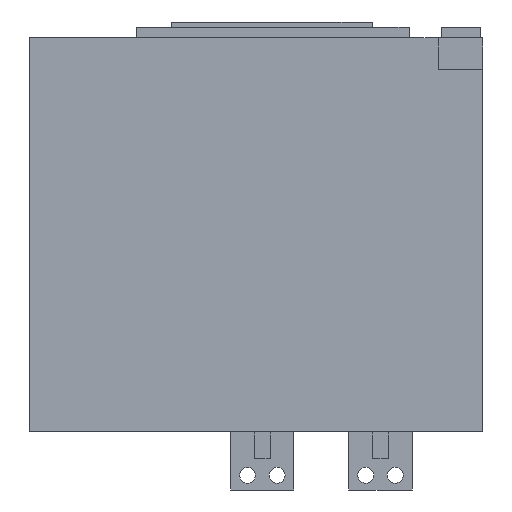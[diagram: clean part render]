
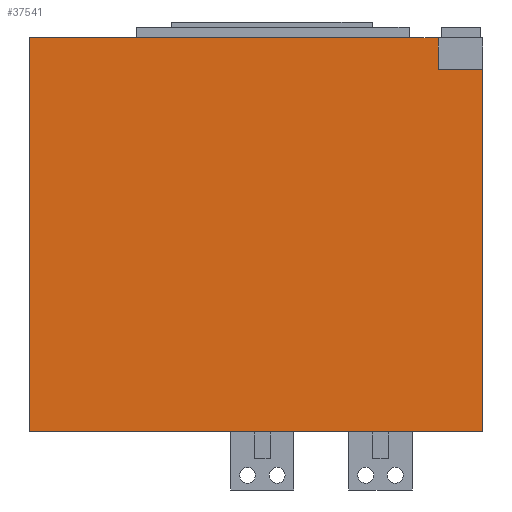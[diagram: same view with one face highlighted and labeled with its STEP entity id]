
A CAD part, left-side view. The second image highlights one B-rep face of the part: STEP entity #37541.
In plain terms, the highlighted planar face has unit normal (-1, 0, 0).
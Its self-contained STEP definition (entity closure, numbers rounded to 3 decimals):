
#518 = ORIENTED_EDGE ( 'NONE', *, *, #30939, .F. ) ;
#1205 = LINE ( 'NONE', #22330, #31260 ) ;
#1665 = ORIENTED_EDGE ( 'NONE', *, *, #14695, .F. ) ;
#1696 = CARTESIAN_POINT ( 'NONE',  ( -167.5, 0., 0. ) ) ;
#2032 = VECTOR ( 'NONE', #36697, 1000. ) ;
#4281 = VERTEX_POINT ( 'NONE', #5309 ) ;
#4598 = VECTOR ( 'NONE', #19833, 1000. ) ;
#5309 = CARTESIAN_POINT ( 'NONE',  ( -167.5, 0., -30. ) ) ;
#6048 = AXIS2_PLACEMENT_3D ( 'NONE', #33734, #27900, #9968 ) ;
#6926 = CARTESIAN_POINT ( 'NONE',  ( -167.5, 42.5, -373.5 ) ) ;
#7945 = ORIENTED_EDGE ( 'NONE', *, *, #24642, .F. ) ;
#7967 = LINE ( 'NONE', #27673, #15080 ) ;
#9101 = CARTESIAN_POINT ( 'NONE',  ( -167.5, 430., 0. ) ) ;
#9937 = DIRECTION ( 'NONE',  ( 0., 0., 1. ) ) ;
#9968 = DIRECTION ( 'NONE',  ( 0., -1., 0. ) ) ;
#10099 = LINE ( 'NONE', #12870, #2032 ) ;
#12431 = LINE ( 'NONE', #15123, #27401 ) ;
#12870 = CARTESIAN_POINT ( 'NONE',  ( -167.5, 0., -373.5 ) ) ;
#12994 = VERTEX_POINT ( 'NONE', #13402 ) ;
#13402 = CARTESIAN_POINT ( 'NONE',  ( -167.5, 42.5, 0. ) ) ;
#14163 = EDGE_CURVE ( 'NONE', #21193, #4281, #7967, .T. ) ;
#14527 = EDGE_CURVE ( 'NONE', #36200, #12994, #16466, .T. ) ;
#14695 = EDGE_CURVE ( 'NONE', #26095, #12994, #27618, .T. ) ;
#15080 = VECTOR ( 'NONE', #18873, 1000. ) ;
#15123 = CARTESIAN_POINT ( 'NONE',  ( -167.5, 430., -373.5 ) ) ;
#16466 = LINE ( 'NONE', #6926, #22524 ) ;
#18416 = EDGE_CURVE ( 'NONE', #36777, #21193, #10099, .T. ) ;
#18873 = DIRECTION ( 'NONE',  ( 0., 0., 1. ) ) ;
#19665 = CARTESIAN_POINT ( 'NONE',  ( -167.5, 0., -373.5 ) ) ;
#19710 = EDGE_LOOP ( 'NONE', ( #1665, #7945, #33427, #23748, #518, #33133 ) ) ;
#19833 = DIRECTION ( 'NONE',  ( 0., -1., 0. ) ) ;
#21193 = VERTEX_POINT ( 'NONE', #19665 ) ;
#22330 = CARTESIAN_POINT ( 'NONE',  ( -167.5, 430.001, -30. ) ) ;
#22524 = VECTOR ( 'NONE', #9937, 1000. ) ;
#23748 = ORIENTED_EDGE ( 'NONE', *, *, #14163, .T. ) ;
#24518 = CARTESIAN_POINT ( 'NONE',  ( -167.5, 42.5, -30. ) ) ;
#24642 = EDGE_CURVE ( 'NONE', #36777, #26095, #12431, .T. ) ;
#24926 = PLANE ( 'NONE',  #6048 ) ;
#25308 = DIRECTION ( 'NONE',  ( 0., -1., 0. ) ) ;
#26095 = VERTEX_POINT ( 'NONE', #9101 ) ;
#27401 = VECTOR ( 'NONE', #29940, 1000. ) ;
#27618 = LINE ( 'NONE', #1696, #4598 ) ;
#27673 = CARTESIAN_POINT ( 'NONE',  ( -167.5, 0., -373.5 ) ) ;
#27900 = DIRECTION ( 'NONE',  ( -1., 0., 0. ) ) ;
#28522 = FACE_OUTER_BOUND ( 'NONE', #19710, .T. ) ;
#28635 = CARTESIAN_POINT ( 'NONE',  ( -167.5, 430., -373.5 ) ) ;
#29940 = DIRECTION ( 'NONE',  ( 0., 0., 1. ) ) ;
#30939 = EDGE_CURVE ( 'NONE', #36200, #4281, #1205, .T. ) ;
#31260 = VECTOR ( 'NONE', #25308, 1000. ) ;
#33133 = ORIENTED_EDGE ( 'NONE', *, *, #14527, .T. ) ;
#33427 = ORIENTED_EDGE ( 'NONE', *, *, #18416, .T. ) ;
#33734 = CARTESIAN_POINT ( 'NONE',  ( -167.5, 0., -373.5 ) ) ;
#36200 = VERTEX_POINT ( 'NONE', #24518 ) ;
#36697 = DIRECTION ( 'NONE',  ( 0., -1., 0. ) ) ;
#36777 = VERTEX_POINT ( 'NONE', #28635 ) ;
#37541 = ADVANCED_FACE ( 'NONE', ( #28522 ), #24926, .T. ) ;
